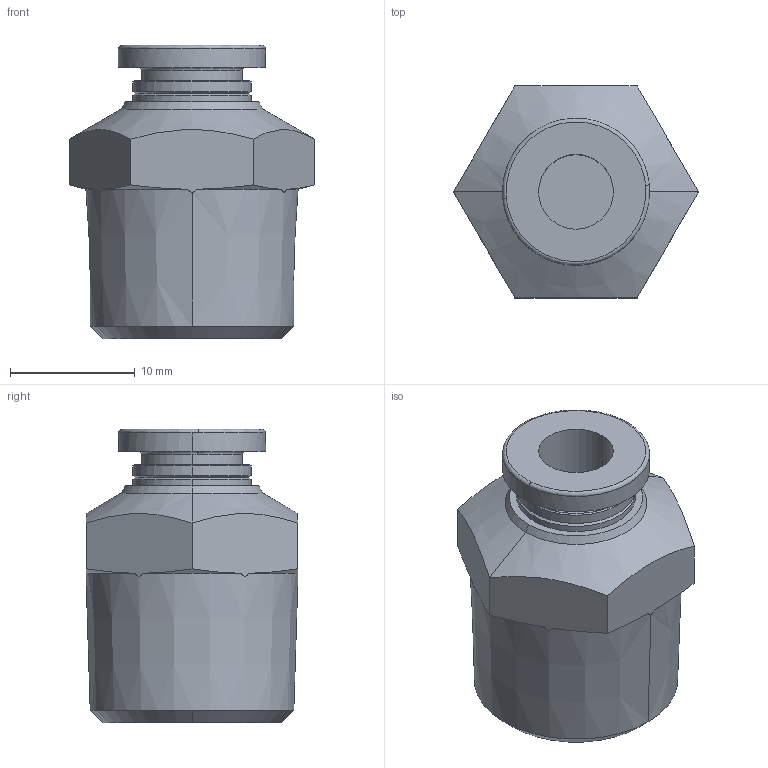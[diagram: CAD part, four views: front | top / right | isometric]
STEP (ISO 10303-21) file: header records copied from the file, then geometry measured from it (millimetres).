
FILE_DESCRIPTION (( 'STEP AP214' ), '1' );
FILE_NAME ('KQ2H06-03AS.STEP', '2023-03-06T10:19:54', ( 'Windows User' ), ( 'P R C' ), 'SwSTEP 2.0', 'SolidWorks 2019', '' );
FILE_SCHEMA (( 'AUTOMOTIVE_DESIGN' ));
Length unit declared in the file: millimetre
Products named in the file (1): KQ2H06-03AS
Bounding box: 19.63 x 17 x 23.55 mm (x, y, z)
Volume: 3982.3 mm3; surface area: 1949.7 mm2
Topology: 1 solids, 1 shells, 48 faces, 117 edges, 75 vertices
Faces by surface type: cone 22, plane 12, cylinder 10, bspline 4
Entity records: 1736 total; most frequent: CARTESIAN_POINT 611, ORIENTED_EDGE 234, DIRECTION 224, EDGE_CURVE 117, AXIS2_PLACEMENT_3D 96, VERTEX_POINT 75, EDGE_LOOP 52, CIRCLE 51
